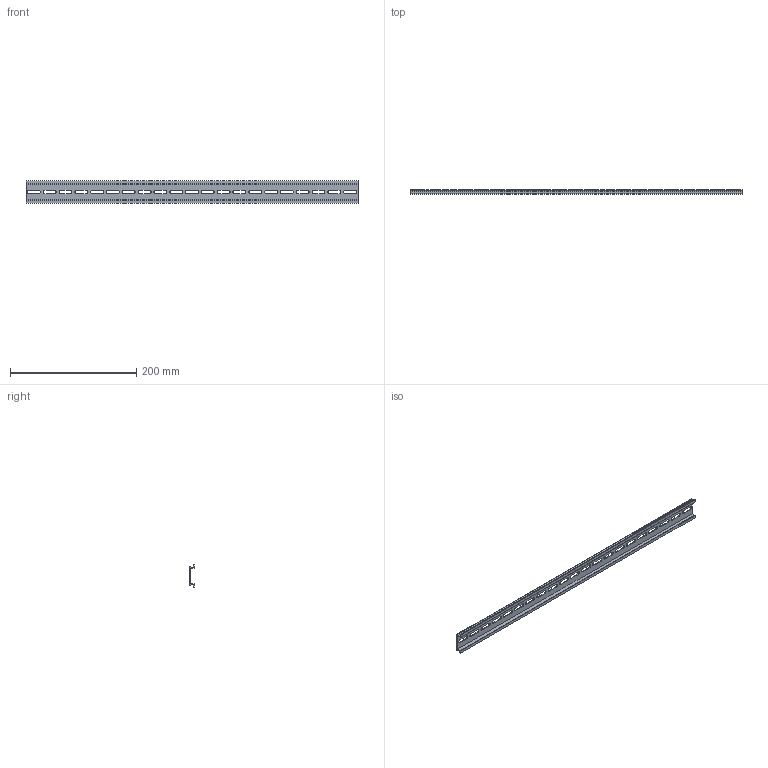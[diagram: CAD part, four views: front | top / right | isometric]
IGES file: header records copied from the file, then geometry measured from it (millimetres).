
Start section: ------------------------------------------------------------------------
Global section: file name: D:\ICADMX\tmp\trans3d_spg\CVICAD02.21224.DIN-RAIL525_7913.igs; native system: spGate; preprocessor: ver12.6.6; author: Unknown; organization: Unknown; date: 200901.142103; units: millimetre
Bounding box: 525 x 7.5 x 35 mm (x, y, z)
Volume: 37064.2 mm3; surface area: 49521.1 mm2
Topology: 1 solids, 1 shells, 104 faces, 306 edges, 204 vertices
Faces by surface type: bspline 104
